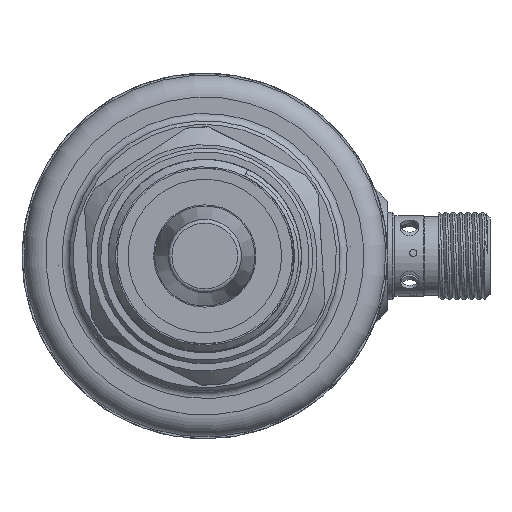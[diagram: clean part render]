
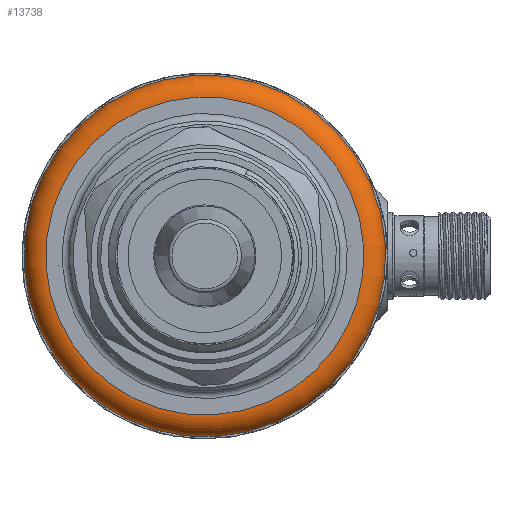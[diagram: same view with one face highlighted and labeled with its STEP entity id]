
A CAD part, front view. The second image highlights one B-rep face of the part: STEP entity #13738.
In plain terms, the highlighted toroidal (fillet/blend) face has major radius 21.75 mm and minor radius 3 mm.
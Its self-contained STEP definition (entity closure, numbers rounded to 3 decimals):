
#249 = EDGE_CURVE ( 'NONE', #14507, #14507, #11680, .T. ) ;
#377 = DIRECTION ( 'NONE',  ( 0., 0., -1. ) ) ;
#1814 = AXIS2_PLACEMENT_3D ( 'NONE', #13084, #9649, #377 ) ;
#2545 = DIRECTION ( 'NONE',  ( 0., 0., -1. ) ) ;
#2677 = DIRECTION ( 'NONE',  ( 0., 0., -1. ) ) ;
#3445 = EDGE_LOOP ( 'NONE', ( #6977 ) ) ;
#3964 = VERTEX_POINT ( 'NONE', #4117 ) ;
#4117 = CARTESIAN_POINT ( 'NONE',  ( 41., 0., -22.025 ) ) ;
#4201 = CARTESIAN_POINT ( 'NONE',  ( 44., 0., -25.025 ) ) ;
#4472 = EDGE_CURVE ( 'NONE', #3964, #3964, #5461, .T. ) ;
#4944 = CARTESIAN_POINT ( 'NONE',  ( 44., 0., -0.275 ) ) ;
#5012 = FACE_OUTER_BOUND ( 'NONE', #3445, .T. ) ;
#5461 = CIRCLE ( 'NONE', #12430, 21.75 ) ;
#6977 = ORIENTED_EDGE ( 'NONE', *, *, #249, .F. ) ;
#7460 = TOROIDAL_SURFACE ( 'NONE', #11297, 21.75, 3. ) ;
#8371 = CARTESIAN_POINT ( 'NONE',  ( 41., 0., -0.275 ) ) ;
#9548 = DIRECTION ( 'NONE',  ( 1., 0., 0. ) ) ;
#9649 = DIRECTION ( 'NONE',  ( 1., 0., 0. ) ) ;
#10903 = EDGE_LOOP ( 'NONE', ( #13695 ) ) ;
#11297 = AXIS2_PLACEMENT_3D ( 'NONE', #4944, #9548, #2677 ) ;
#11680 = CIRCLE ( 'NONE', #1814, 24.75 ) ;
#11794 = FACE_OUTER_BOUND ( 'NONE', #10903, .T. ) ;
#12430 = AXIS2_PLACEMENT_3D ( 'NONE', #8371, #13847, #2545 ) ;
#13084 = CARTESIAN_POINT ( 'NONE',  ( 44., 0., -0.275 ) ) ;
#13695 = ORIENTED_EDGE ( 'NONE', *, *, #4472, .F. ) ;
#13738 = ADVANCED_FACE ( 'NONE', ( #5012, #11794 ), #7460, .T. ) ;
#13847 = DIRECTION ( 'NONE',  ( -1., 0., 0. ) ) ;
#14507 = VERTEX_POINT ( 'NONE', #4201 ) ;
